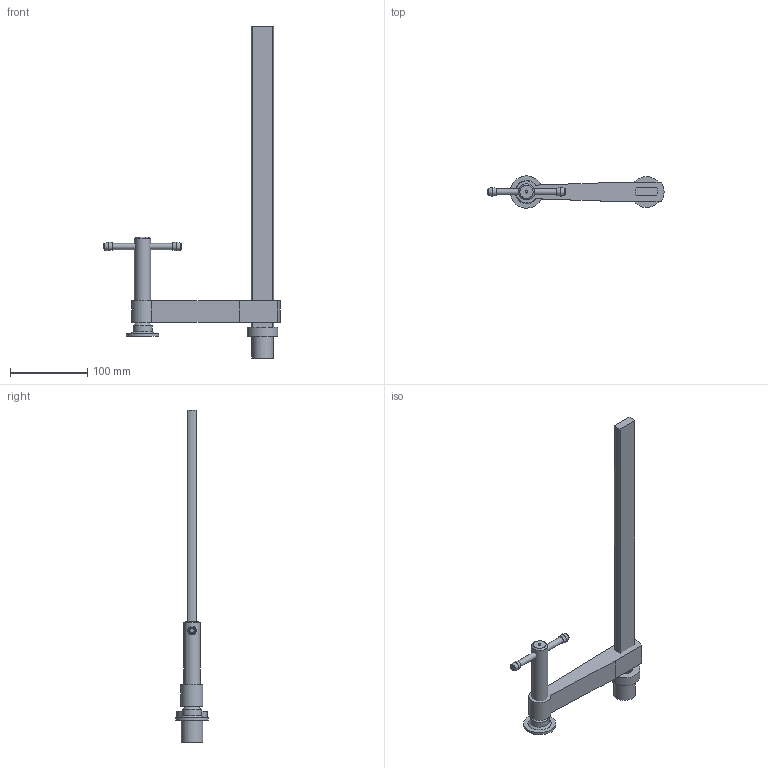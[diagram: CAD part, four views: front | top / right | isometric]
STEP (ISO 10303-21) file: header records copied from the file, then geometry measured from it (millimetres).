
FILE_DESCRIPTION( ('This file contains a STEP AP42 implementation' ,'as created by ZW3D STEP Interface translator.') ,'2;1' );
FILE_NAME( 'TW28-30-14K.stp' ,'14 317.132023', (''), ('ZWCAD Software Co.'), 'Version 1.0', 'ZW3D to STEP translator', '' );
FILE_SCHEMA( ('CONFIG_CONTROL_DESIGN') );
Length unit declared in the file: millimetre
Products named in the file (2): 0; 3205300 - TW28-30-14K unten
Bounding box: 227.6 x 41.72 x 429 mm (x, y, z)
Volume: 309530.2 mm3; surface area: 74081.2 mm2
Topology: 4 solids, 4 shells, 42 faces, 83 edges, 51 vertices
Faces by surface type: bspline 42
Entity records: 1486 total; most frequent: CARTESIAN_POINT 903, ORIENTED_EDGE 166, EDGE_CURVE 83, VERTEX_POINT 51, EDGE_LOOP 50, FACE_OUTER_BOUND 42, ADVANCED_FACE 42, OVER_RIDING_STYLED_ITEM 42
